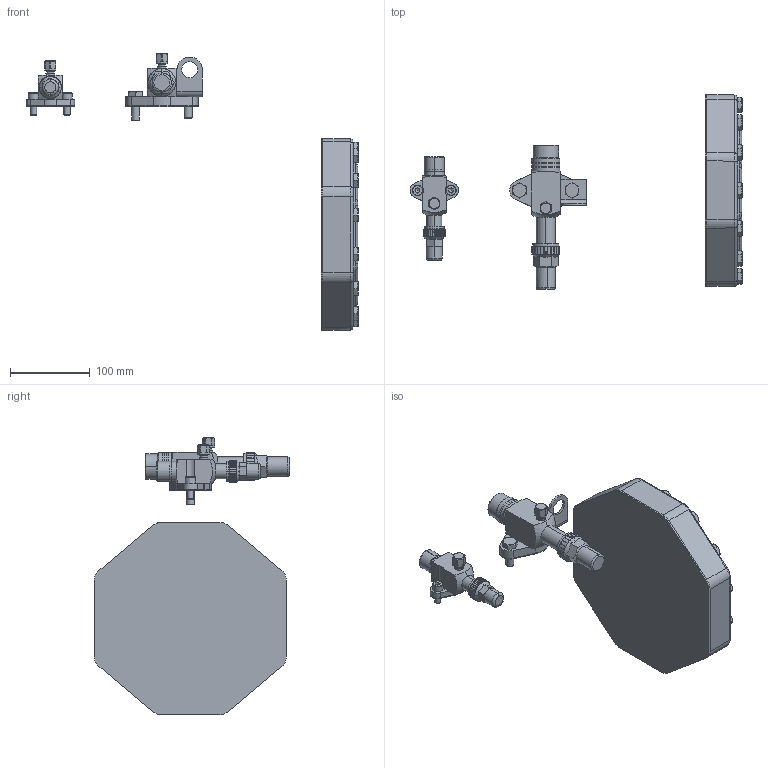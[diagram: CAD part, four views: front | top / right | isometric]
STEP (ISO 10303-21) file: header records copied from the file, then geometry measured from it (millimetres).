
FILE_DESCRIPTION(/* description */ (''),/* implementation_level */ '2;1');
FILE_NAME(/* name */ '4DES7-4CES-4BES9.stp',/* time_stamp */ '2023-10-24T12:03:30+02:00',/* author */ (''),/* organization */ (''),/* preprocessor_version */ 'ST-DEVELOPER v19.3',/* originating_system */ 'SIEMENS PLM Software NX2212.3001',/* authorisation */ '');
FILE_SCHEMA (('AUTOMOTIVE_DESIGN { 1 0 10303 214 3 1 1 1 }'));
Length unit declared in the file: millimetre
Products named in the file (4): SHUT-OFF-VALVE-COMPL-D28L; SHUT-OFF-VALVE-COMPL-D22L; HOUSING-COVER-HIGH-DESIGN; 4DES7-4CES-4BES9
Assembly tree (3 placements, depth 2):
  4DES7-4CES-4BES9
    HOUSING-COVER-HIGH-DESIGN
    SHUT-OFF-VALVE-COMPL-D22L
    SHUT-OFF-VALVE-COMPL-D28L
Bounding box: 416.9 x 245.07 x 347.92 mm (x, y, z)
Volume: 2362858 mm3; surface area: 195484.8 mm2
Topology: 3 solids, 3 shells, 1045 faces, 2672 edges, 1702 vertices
Faces by surface type: plane 588, cylinder 229, cone 186, bspline 24, torus 10, extrusion 8
Full cylindrical faces by diameter (mm): 7.794 x2, 9 x2, 10 x2, 11 x2, 13 x2, 14.59 x14, 20 x2, 27 x1, 34.5 x1
Entity records: 34571 total; most frequent: CARTESIAN_POINT 7078, ORIENTED_EDGE 5242, DIRECTION 5112, EDGE_CURVE 2621, AXIS2_PLACEMENT_3D 1822, VERTEX_POINT 1697, VECTOR 1468, LINE 1460
